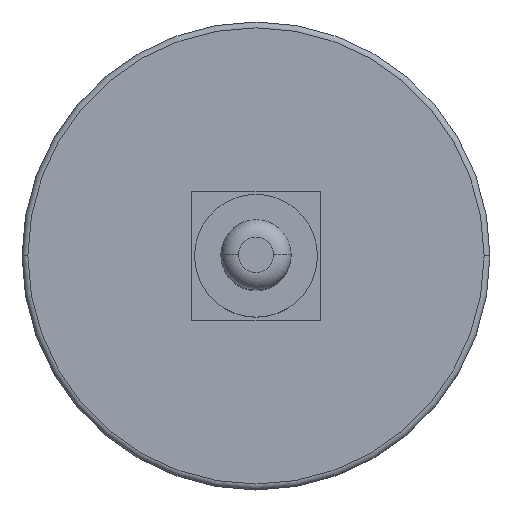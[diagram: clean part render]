
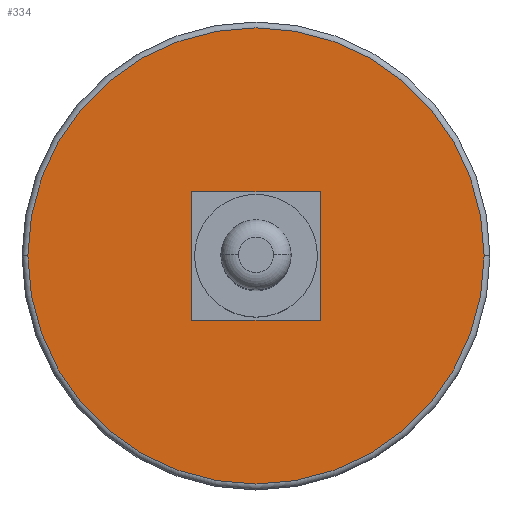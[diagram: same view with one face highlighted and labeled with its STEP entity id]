
A CAD part, top view. The second image highlights one B-rep face of the part: STEP entity #334.
In plain terms, the highlighted planar face has unit normal (0, 0, 1).
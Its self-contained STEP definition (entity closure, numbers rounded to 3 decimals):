
#20 = AXIS2_PLACEMENT_3D ( 'NONE', #262, #127, #485 ) ;
#22 = EDGE_CURVE ( 'NONE', #550, #474, #348, .T. ) ;
#39 = VERTEX_POINT ( 'NONE', #268 ) ;
#42 = VERTEX_POINT ( 'NONE', #441 ) ;
#79 = CARTESIAN_POINT ( 'NONE',  ( 39., 0., 10.5 ) ) ;
#84 = ORIENTED_EDGE ( 'NONE', *, *, #562, .F. ) ;
#91 = DIRECTION ( 'NONE',  ( 0., 0., 1. ) ) ;
#114 = ORIENTED_EDGE ( 'NONE', *, *, #548, .T. ) ;
#127 = DIRECTION ( 'NONE',  ( 0., 0., 1. ) ) ;
#136 = ORIENTED_EDGE ( 'NONE', *, *, #328, .F. ) ;
#151 = VECTOR ( 'NONE', #545, 1000. ) ;
#165 = DIRECTION ( 'NONE',  ( 1., 0., 0. ) ) ;
#171 = CARTESIAN_POINT ( 'NONE',  ( -39., 0., 10.5 ) ) ;
#182 = DIRECTION ( 'NONE',  ( 1., 0., 0. ) ) ;
#196 = VECTOR ( 'NONE', #296, 1000. ) ;
#205 = FACE_BOUND ( 'NONE', #322, .T. ) ;
#226 = ORIENTED_EDGE ( 'NONE', *, *, #459, .F. ) ;
#249 = CIRCLE ( 'NONE', #20, 39. ) ;
#252 = FACE_OUTER_BOUND ( 'NONE', #324, .T. ) ;
#257 = CARTESIAN_POINT ( 'NONE',  ( -11., -11., 10.5 ) ) ;
#262 = CARTESIAN_POINT ( 'NONE',  ( 0., 0., 10.5 ) ) ;
#266 = LINE ( 'NONE', #439, #380 ) ;
#268 = CARTESIAN_POINT ( 'NONE',  ( -11., 11., 10.5 ) ) ;
#289 = VECTOR ( 'NONE', #395, 1000. ) ;
#296 = DIRECTION ( 'NONE',  ( 1., 0., 0. ) ) ;
#297 = VERTEX_POINT ( 'NONE', #435 ) ;
#306 = ORIENTED_EDGE ( 'NONE', *, *, #525, .F. ) ;
#314 = LINE ( 'NONE', #538, #151 ) ;
#322 = EDGE_LOOP ( 'NONE', ( #84, #136, #226, #306 ) ) ;
#324 = EDGE_LOOP ( 'NONE', ( #342, #114 ) ) ;
#326 = AXIS2_PLACEMENT_3D ( 'NONE', #481, #91, #182 ) ;
#328 = EDGE_CURVE ( 'NONE', #297, #587, #517, .T. ) ;
#334 = ADVANCED_FACE ( 'NONE', ( #252, #205 ), #569, .T. ) ;
#342 = ORIENTED_EDGE ( 'NONE', *, *, #22, .T. ) ;
#348 = CIRCLE ( 'NONE', #326, 39. ) ;
#355 = DIRECTION ( 'NONE',  ( 0., 1., 0. ) ) ;
#380 = VECTOR ( 'NONE', #355, 1000. ) ;
#395 = DIRECTION ( 'NONE',  ( 0., -1., 0. ) ) ;
#400 = CARTESIAN_POINT ( 'NONE',  ( -11., 11., 10.5 ) ) ;
#409 = CARTESIAN_POINT ( 'NONE',  ( 11., -11., 10.5 ) ) ;
#435 = CARTESIAN_POINT ( 'NONE',  ( -11., -11., 10.5 ) ) ;
#439 = CARTESIAN_POINT ( 'NONE',  ( 11., 11., 10.5 ) ) ;
#441 = CARTESIAN_POINT ( 'NONE',  ( 11., 11., 10.5 ) ) ;
#459 = EDGE_CURVE ( 'NONE', #39, #297, #496, .T. ) ;
#474 = VERTEX_POINT ( 'NONE', #171 ) ;
#477 = DIRECTION ( 'NONE',  ( 0., 0., 1. ) ) ;
#481 = CARTESIAN_POINT ( 'NONE',  ( 0., 0., 10.5 ) ) ;
#485 = DIRECTION ( 'NONE',  ( 1., 0., 0. ) ) ;
#496 = LINE ( 'NONE', #400, #289 ) ;
#504 = AXIS2_PLACEMENT_3D ( 'NONE', #521, #477, #165 ) ;
#517 = LINE ( 'NONE', #257, #196 ) ;
#521 = CARTESIAN_POINT ( 'NONE',  ( 0., 0., 10.5 ) ) ;
#525 = EDGE_CURVE ( 'NONE', #42, #39, #314, .T. ) ;
#538 = CARTESIAN_POINT ( 'NONE',  ( -11., 11., 10.5 ) ) ;
#545 = DIRECTION ( 'NONE',  ( -1., 0., 0. ) ) ;
#548 = EDGE_CURVE ( 'NONE', #474, #550, #249, .T. ) ;
#550 = VERTEX_POINT ( 'NONE', #79 ) ;
#562 = EDGE_CURVE ( 'NONE', #587, #42, #266, .T. ) ;
#569 = PLANE ( 'NONE',  #504 ) ;
#587 = VERTEX_POINT ( 'NONE', #409 ) ;
